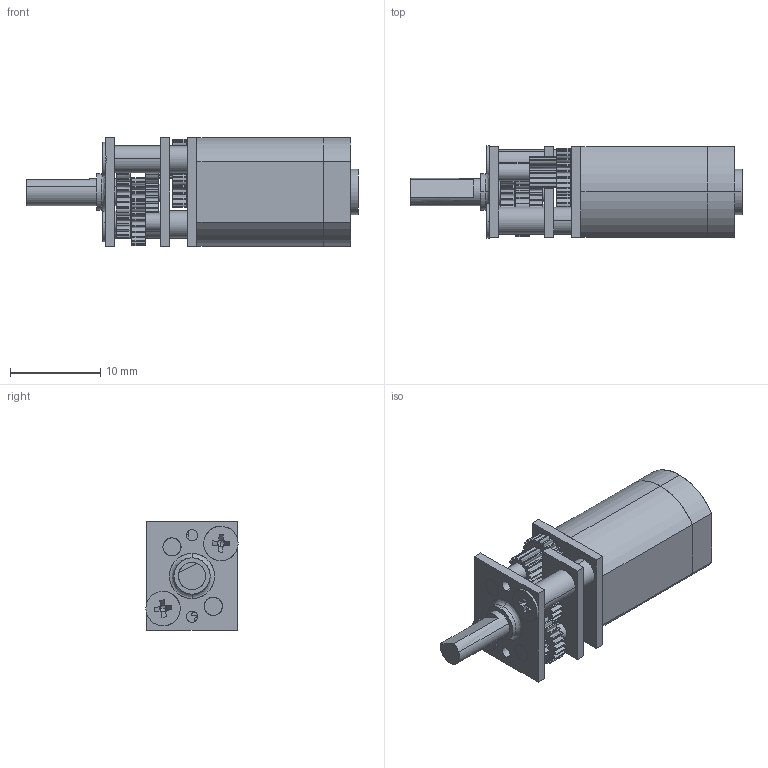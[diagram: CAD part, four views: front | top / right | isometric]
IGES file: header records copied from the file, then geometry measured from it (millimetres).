
Start section: SolidWorks IGES file using analytic representation for surfaces
Global section: file name: E:\AASolidworks\GrabCad\Upload\Lyman Extruder\GA12-N20 Motor Model\GA12-N20 Motor-Complet.IGS; native system: SolidWorks 2015; preprocessor: SolidWorks 2015; author: user; date: 200905.215601; units: millimetre
Bounding box: 36.7 x 10.2 x 12 mm (x, y, z)
Surface area: 4448.5 mm2 (no closed solid volume)
Topology: 0 solids, 0 shells, 647 faces, 12420 edges, 12412 vertices
Faces by surface type: revolution 348, bspline 299
